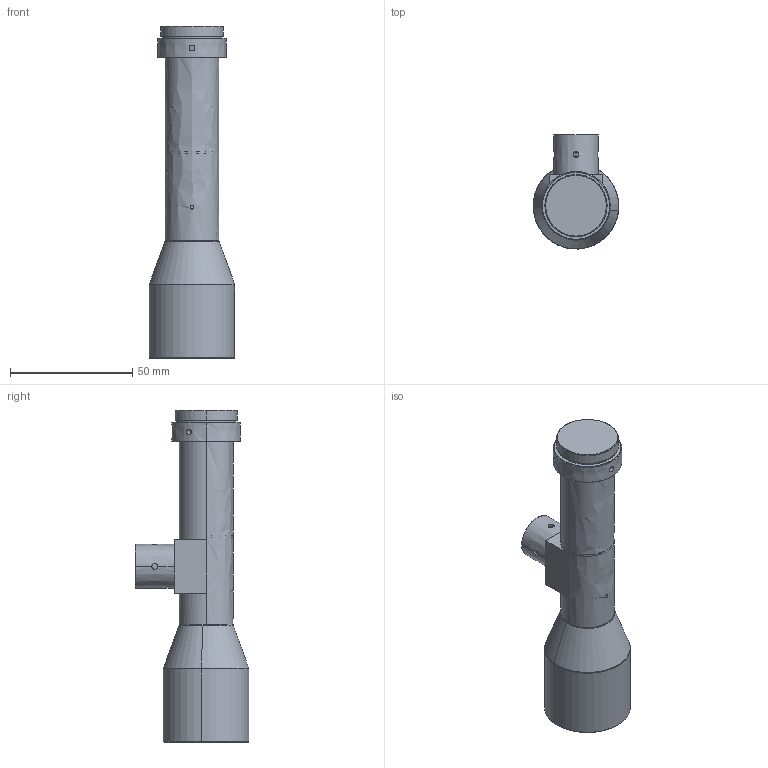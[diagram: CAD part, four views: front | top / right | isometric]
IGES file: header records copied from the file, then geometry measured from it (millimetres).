
Start section: SolidWorks IGES file using analytic representation for surfaces
Global section: file name: 11HD:\W\00-外形图工作区\敖工\2024-2-21-WWH05-110CTV3-HK\WWH05-110CTV3-HK\WWH05-110CTV3-HK pdf\WWH05-110CTV3-HK.IGS; native system: SolidWorks 2017; preprocessor: SolidWorks 2017; author: jg; date: 240221.182247; units: millimetre
Bounding box: 34.95 x 46.48 x 135.61 mm (x, y, z)
Surface area: 15894.5 mm2 (no closed solid volume)
Topology: 0 solids, 0 shells, 132 faces, 2661 edges, 2653 vertices
Faces by surface type: revolution 99, bspline 33
